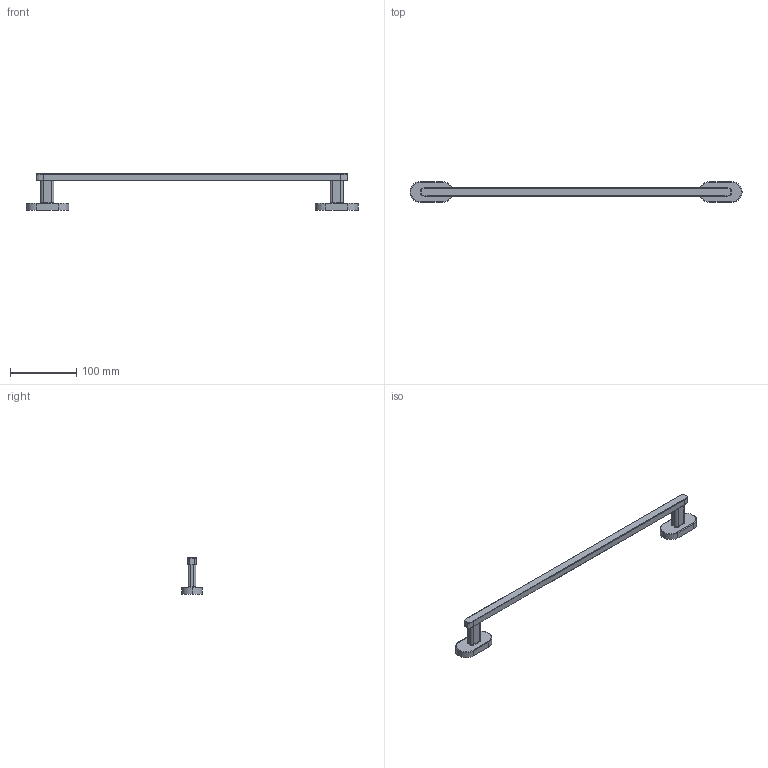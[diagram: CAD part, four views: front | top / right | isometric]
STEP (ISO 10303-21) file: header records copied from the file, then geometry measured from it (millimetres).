
FILE_DESCRIPTION (( 'STEP AP203' ), '1' );
FILE_NAME ('PL18804-uzun havluluk.STEP', '2016-04-13T11:57:19', ( '' ), ( '' ), 'SwSTEP 2.0', 'SolidWorks 2016', '' );
FILE_SCHEMA (( 'CONFIG_CONTROL_DESIGN' ));
Length unit declared in the file: millimetre
Products named in the file (1): PL18804-uzun havluluk
Bounding box: 502.75 x 31.6 x 54.9 mm (x, y, z)
Volume: 112831.8 mm3; surface area: 34831.5 mm2
Topology: 1 solids, 1 shells, 102 faces, 228 edges, 132 vertices
Faces by surface type: cylinder 44, torus 24, plane 22, bspline 12
Entity records: 3573 total; most frequent: CARTESIAN_POINT 1315, DIRECTION 462, ORIENTED_EDGE 456, EDGE_CURVE 228, AXIS2_PLACEMENT_3D 187, VERTEX_POINT 132, EDGE_LOOP 106, FACE_OUTER_BOUND 102
